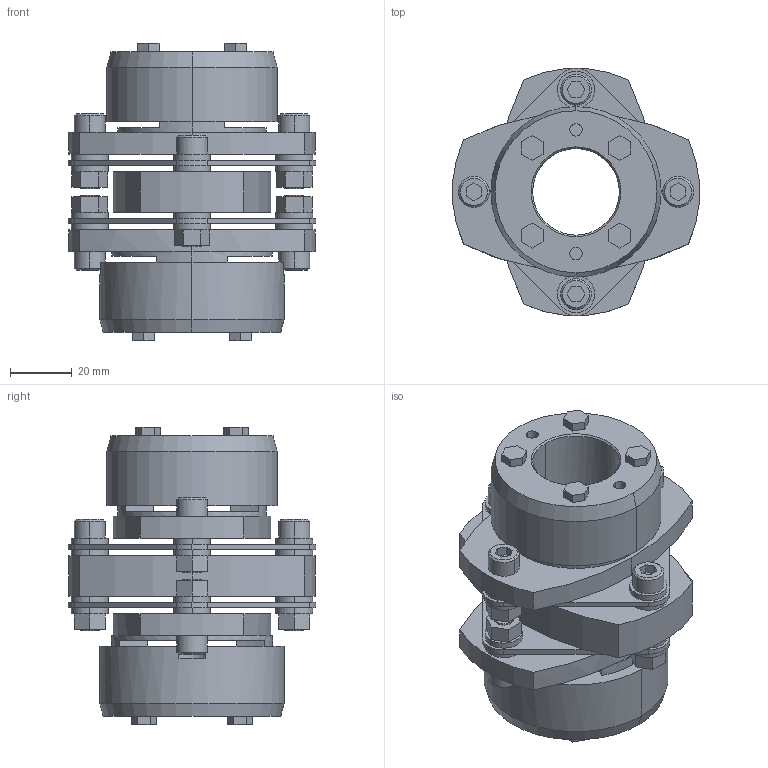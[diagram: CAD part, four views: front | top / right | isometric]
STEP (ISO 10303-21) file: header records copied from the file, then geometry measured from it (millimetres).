
FILE_DESCRIPTION((''),'2;1');
FILE_NAME('LCD-80T7-28×32.stp','2011-09-15T15:57:09',(''),(''),'AutoCAD STEP 2000i','AutoCAD 2000i',', , ');
FILE_SCHEMA(('CONFIG_CONTROL_DESIGN'));
Length unit declared in the file: millimetre
Products named in the file (13): LCD-80T7-28×32; 忣兜1; LC80T7-T032; LC80T7-T030; LC80T7-T028-1; LC80T7-T028; LC80T7-T024; LC80T7-T022; LC80T7-T019-1; LC80T7-T019; LC80T7-T017-1; LC80T7-T017; LCD80-ITA
Assembly tree (12 placements, depth 2):
  LCD-80T7-28×32
    忣兜1
    LC80T7-T032
    LC80T7-T030
    LC80T7-T028-1
    LC80T7-T028
    LC80T7-T024
    LC80T7-T022
    LC80T7-T019-1
    LC80T7-T019
    LC80T7-T017-1
    LC80T7-T017
    LCD80-ITA
Bounding box: 80 x 79.95 x 96.1 mm (x, y, z)
Volume: 177010.4 mm3; surface area: 57970.4 mm2
Topology: 1 solids, 1 shells, 341 faces, 836 edges, 548 vertices
Faces by surface type: plane 195, cylinder 122, cone 24
Entity records: 10397 total; most frequent: DIRECTION 1840, CARTESIAN_POINT 1738, ORIENTED_EDGE 1672, EDGE_CURVE 836, AXIS2_PLACEMENT_3D 650, VERTEX_POINT 548, VECTOR 540, LINE 540
